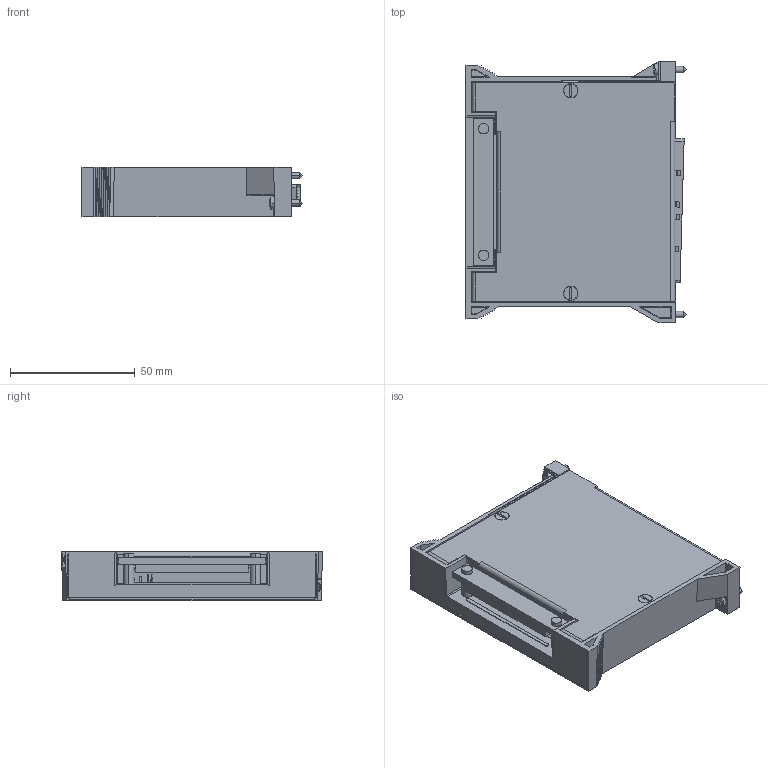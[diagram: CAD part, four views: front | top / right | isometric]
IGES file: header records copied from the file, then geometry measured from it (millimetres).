
Start section:  PTC IGES file: cu_tb-2630b.igs
Global section: file name: cu_tb-2630b.igs; native system: Pro/ENGINEER by Parametric Technology Corporation; preprocessor: 2010230; author: jjorden; organization: Unknown; date: 20110121.155949; units: inch
Bounding box: 88.31 x 104.78 x 20.02 mm (x, y, z)
Surface area: 53473.4 mm2 (no closed solid volume)
Topology: 0 solids, 0 shells, 1441 faces, 7558 edges, 7494 vertices
Faces by surface type: bspline 1090, revolution 351
